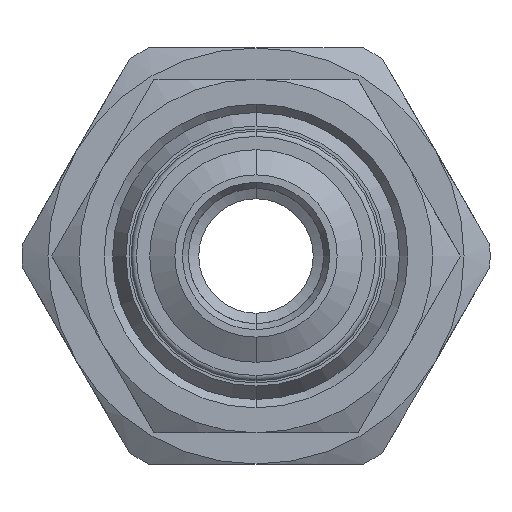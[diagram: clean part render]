
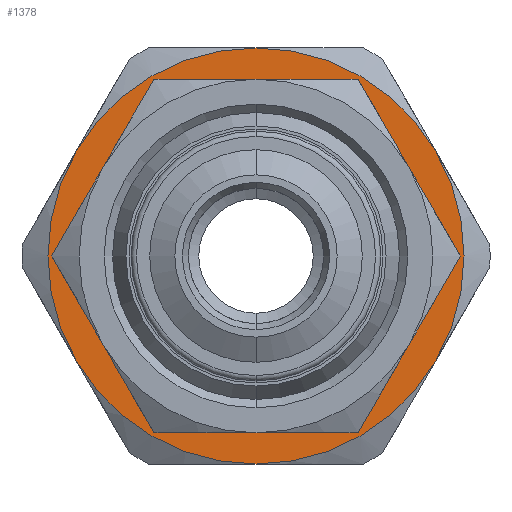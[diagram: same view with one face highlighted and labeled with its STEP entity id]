
A CAD part, front view. The second image highlights one B-rep face of the part: STEP entity #1378.
In plain terms, the highlighted planar face has unit normal (0, -1, 0).
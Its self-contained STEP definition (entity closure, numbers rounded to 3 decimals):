
#111 = DIRECTION ( 'NONE',  ( 0., -1., 0. ) ) ;
#330 = AXIS2_PLACEMENT_3D ( 'NONE', #2645, #2434, #2394 ) ;
#499 = EDGE_CURVE ( 'NONE', #1965, #2208, #5017, .T. ) ;
#547 = AXIS2_PLACEMENT_3D ( 'NONE', #5709, #3821, #3904 ) ;
#564 = CARTESIAN_POINT ( 'NONE',  ( 0., 16., 0. ) ) ;
#614 = VERTEX_POINT ( 'NONE', #4192 ) ;
#639 = DIRECTION ( 'NONE',  ( 0., -1., 0. ) ) ;
#688 = EDGE_CURVE ( 'NONE', #2405, #5270, #2860, .T. ) ;
#949 = DIRECTION ( 'NONE',  ( 0., 0., -1. ) ) ;
#1183 = VERTEX_POINT ( 'NONE', #4197 ) ;
#1294 = CARTESIAN_POINT ( 'NONE',  ( -8.66, 16., 5. ) ) ;
#1378 = ADVANCED_FACE ( 'NONE', ( #5559, #1861 ), #3719, .T. ) ;
#1389 = CARTESIAN_POINT ( 'NONE',  ( 8.66, 16., 5. ) ) ;
#1424 = AXIS2_PLACEMENT_3D ( 'NONE', #564, #639, #3502 ) ;
#1733 = ORIENTED_EDGE ( 'NONE', *, *, #1786, .T. ) ;
#1786 = EDGE_CURVE ( 'NONE', #1183, #1965, #5549, .T. ) ;
#1802 = CARTESIAN_POINT ( 'NONE',  ( 0., 16., 0. ) ) ;
#1861 = FACE_BOUND ( 'NONE', #4055, .T. ) ;
#1875 = ORIENTED_EDGE ( 'NONE', *, *, #5267, .F. ) ;
#1886 = CARTESIAN_POINT ( 'NONE',  ( 0., 16., -10. ) ) ;
#1908 = CIRCLE ( 'NONE', #5705, 6.9 ) ;
#1965 = VERTEX_POINT ( 'NONE', #1886 ) ;
#2208 = VERTEX_POINT ( 'NONE', #6340 ) ;
#2289 = ORIENTED_EDGE ( 'NONE', *, *, #4072, .F. ) ;
#2298 = CIRCLE ( 'NONE', #5789, 6.9 ) ;
#2310 = DIRECTION ( 'NONE',  ( 0., 0., -1. ) ) ;
#2343 = EDGE_CURVE ( 'NONE', #5270, #1183, #2411, .T. ) ;
#2394 = DIRECTION ( 'NONE',  ( 0., 0., -1. ) ) ;
#2405 = VERTEX_POINT ( 'NONE', #2874 ) ;
#2411 = CIRCLE ( 'NONE', #4213, 10. ) ;
#2434 = DIRECTION ( 'NONE',  ( 0., -1., 0. ) ) ;
#2559 = EDGE_CURVE ( 'NONE', #3773, #2405, #3976, .T. ) ;
#2601 = ORIENTED_EDGE ( 'NONE', *, *, #2343, .T. ) ;
#2645 = CARTESIAN_POINT ( 'NONE',  ( 0., 16., 0. ) ) ;
#2728 = VERTEX_POINT ( 'NONE', #5552 ) ;
#2860 = CIRCLE ( 'NONE', #3867, 10. ) ;
#2874 = CARTESIAN_POINT ( 'NONE',  ( 0., 16., 10. ) ) ;
#2899 = ORIENTED_EDGE ( 'NONE', *, *, #5739, .T. ) ;
#3123 = CARTESIAN_POINT ( 'NONE',  ( 0., 16., 0. ) ) ;
#3132 = CARTESIAN_POINT ( 'NONE',  ( 0., 16., 0. ) ) ;
#3188 = ORIENTED_EDGE ( 'NONE', *, *, #688, .T. ) ;
#3198 = DIRECTION ( 'NONE',  ( 0., -1., 0. ) ) ;
#3502 = DIRECTION ( 'NONE',  ( 0., 0., -1. ) ) ;
#3603 = DIRECTION ( 'NONE',  ( 0., 0., -1. ) ) ;
#3666 = DIRECTION ( 'NONE',  ( 0., 0., -1. ) ) ;
#3719 = PLANE ( 'NONE',  #3770 ) ;
#3770 = AXIS2_PLACEMENT_3D ( 'NONE', #6327, #6051, #949 ) ;
#3773 = VERTEX_POINT ( 'NONE', #1389 ) ;
#3821 = DIRECTION ( 'NONE',  ( 0., -1., 0. ) ) ;
#3867 = AXIS2_PLACEMENT_3D ( 'NONE', #5871, #3198, #5962 ) ;
#3904 = DIRECTION ( 'NONE',  ( 0., 0., -1. ) ) ;
#3976 = CIRCLE ( 'NONE', #330, 10. ) ;
#4055 = EDGE_LOOP ( 'NONE', ( #1875, #2289 ) ) ;
#4072 = EDGE_CURVE ( 'NONE', #614, #2728, #1908, .T. ) ;
#4087 = DIRECTION ( 'NONE',  ( 0., -1., 0. ) ) ;
#4192 = CARTESIAN_POINT ( 'NONE',  ( 0., 16., 6.9 ) ) ;
#4197 = CARTESIAN_POINT ( 'NONE',  ( -8.66, 16., -5. ) ) ;
#4213 = AXIS2_PLACEMENT_3D ( 'NONE', #3132, #4087, #3666 ) ;
#4289 = ORIENTED_EDGE ( 'NONE', *, *, #2559, .T. ) ;
#4306 = CARTESIAN_POINT ( 'NONE',  ( 0., 16., 0. ) ) ;
#4333 = DIRECTION ( 'NONE',  ( 0., -1., 0. ) ) ;
#4444 = DIRECTION ( 'NONE',  ( 0., 0., -1. ) ) ;
#5017 = CIRCLE ( 'NONE', #547, 10. ) ;
#5130 = ORIENTED_EDGE ( 'NONE', *, *, #499, .T. ) ;
#5185 = DIRECTION ( 'NONE',  ( 0., -1., 0. ) ) ;
#5267 = EDGE_CURVE ( 'NONE', #2728, #614, #2298, .T. ) ;
#5270 = VERTEX_POINT ( 'NONE', #1294 ) ;
#5396 = EDGE_LOOP ( 'NONE', ( #5130, #2899, #4289, #3188, #2601, #1733 ) ) ;
#5440 = AXIS2_PLACEMENT_3D ( 'NONE', #3123, #111, #3603 ) ;
#5549 = CIRCLE ( 'NONE', #1424, 10. ) ;
#5552 = CARTESIAN_POINT ( 'NONE',  ( 0., 16., -6.9 ) ) ;
#5559 = FACE_OUTER_BOUND ( 'NONE', #5396, .T. ) ;
#5705 = AXIS2_PLACEMENT_3D ( 'NONE', #4306, #4333, #4444 ) ;
#5709 = CARTESIAN_POINT ( 'NONE',  ( 0., 16., 0. ) ) ;
#5739 = EDGE_CURVE ( 'NONE', #2208, #3773, #5969, .T. ) ;
#5789 = AXIS2_PLACEMENT_3D ( 'NONE', #1802, #5185, #2310 ) ;
#5871 = CARTESIAN_POINT ( 'NONE',  ( 0., 16., 0. ) ) ;
#5962 = DIRECTION ( 'NONE',  ( 0., 0., -1. ) ) ;
#5969 = CIRCLE ( 'NONE', #5440, 10. ) ;
#6051 = DIRECTION ( 'NONE',  ( 0., -1., 0. ) ) ;
#6327 = CARTESIAN_POINT ( 'NONE',  ( 0., 16., 0. ) ) ;
#6340 = CARTESIAN_POINT ( 'NONE',  ( 8.66, 16., -5. ) ) ;
